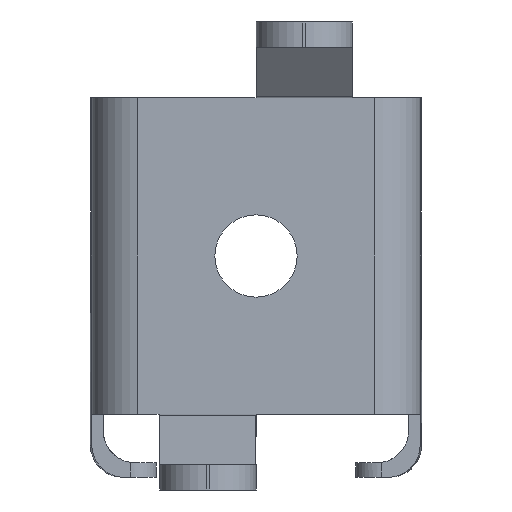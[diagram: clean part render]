
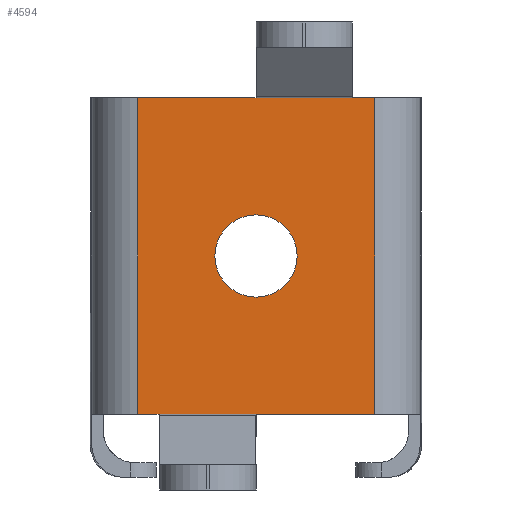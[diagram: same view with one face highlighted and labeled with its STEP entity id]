
A CAD part, front view. The second image highlights one B-rep face of the part: STEP entity #4594.
In plain terms, the highlighted planar face has unit normal (0, -1, 0).
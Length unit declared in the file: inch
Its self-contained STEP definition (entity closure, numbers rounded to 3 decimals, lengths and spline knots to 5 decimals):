
#35=FACE_BOUND('',#885,.T.);
#382=PLANE('',#4884);
#629=FACE_OUTER_BOUND('',#884,.T.);
#884=EDGE_LOOP('',(#4269,#4270,#4271,#4272,#4273,#4274,#4275,#4276,#4277,
#4278));
#885=EDGE_LOOP('',(#4279));
#1169=LINE('',#7795,#1596);
#1178=LINE('',#7816,#1605);
#1237=LINE('',#8144,#1664);
#1244=LINE('',#8166,#1671);
#1248=LINE('',#8182,#1675);
#1251=LINE('',#8187,#1678);
#1265=LINE('',#8258,#1692);
#1312=LINE('',#8433,#1739);
#1313=LINE('',#8435,#1740);
#1596=VECTOR('',#5372,0.3937);
#1605=VECTOR('',#5395,0.3937);
#1664=VECTOR('',#5588,0.3937);
#1671=VECTOR('',#5607,0.3937);
#1675=VECTOR('',#5621,0.3937);
#1678=VECTOR('',#5628,0.3937);
#1692=VECTOR('',#5672,0.3937);
#1739=VECTOR('',#5833,0.3937);
#1740=VECTOR('',#5836,0.3937);
#1749=CIRCLE('',#4625,0.02559);
#1810=CIRCLE('',#4800,0.001);
#1840=VERTEX_POINT('',#5865);
#2114=VERTEX_POINT('',#7758);
#2125=VERTEX_POINT('',#7793);
#2126=VERTEX_POINT('',#7794);
#2131=VERTEX_POINT('',#7815);
#2223=VERTEX_POINT('',#8142);
#2224=VERTEX_POINT('',#8146);
#2225=VERTEX_POINT('',#8148);
#2232=VERTEX_POINT('',#8165);
#2239=VERTEX_POINT('',#8181);
#2265=VERTEX_POINT('',#8256);
#2289=EDGE_CURVE('',#1840,#1840,#1749,.T.);
#2712=EDGE_CURVE('',#2125,#2126,#1169,.T.);
#2723=EDGE_CURVE('',#2126,#2131,#1178,.T.);
#2839=EDGE_CURVE('',#2223,#2114,#1237,.T.);
#2841=EDGE_CURVE('',#2224,#2225,#1810,.T.);
#2850=EDGE_CURVE('',#2225,#2232,#1244,.T.);
#2858=EDGE_CURVE('',#2114,#2239,#1248,.T.);
#2861=EDGE_CURVE('',#2239,#2224,#1251,.T.);
#2890=EDGE_CURVE('',#2265,#2125,#1265,.T.);
#2956=EDGE_CURVE('',#2131,#2223,#1312,.T.);
#2957=EDGE_CURVE('',#2265,#2232,#1313,.T.);
#4269=ORIENTED_EDGE('',*,*,#2890,.F.);
#4270=ORIENTED_EDGE('',*,*,#2957,.T.);
#4271=ORIENTED_EDGE('',*,*,#2850,.F.);
#4272=ORIENTED_EDGE('',*,*,#2841,.F.);
#4273=ORIENTED_EDGE('',*,*,#2861,.F.);
#4274=ORIENTED_EDGE('',*,*,#2858,.F.);
#4275=ORIENTED_EDGE('',*,*,#2839,.F.);
#4276=ORIENTED_EDGE('',*,*,#2956,.F.);
#4277=ORIENTED_EDGE('',*,*,#2723,.F.);
#4278=ORIENTED_EDGE('',*,*,#2712,.F.);
#4279=ORIENTED_EDGE('',*,*,#2289,.T.);
#4594=ADVANCED_FACE('',(#629,#35),#382,.T.);
#4625=AXIS2_PLACEMENT_3D('',#5866,#4898,#4899);
#4800=AXIS2_PLACEMENT_3D('',#8149,#5592,#5593);
#4884=AXIS2_PLACEMENT_3D('',#8434,#5834,#5835);
#4898=DIRECTION('center_axis',(0.,1.,0.));
#4899=DIRECTION('ref_axis',(-1.,0.,0.));
#5372=DIRECTION('',(1.,0.,0.));
#5395=DIRECTION('',(1.,0.,0.));
#5588=DIRECTION('',(-1.,0.,0.));
#5592=DIRECTION('center_axis',(0.,-1.,0.));
#5593=DIRECTION('ref_axis',(0.707,0.,0.707));
#5607=DIRECTION('',(-1.,0.,0.));
#5621=DIRECTION('',(-1.,0.,0.));
#5628=DIRECTION('',(0.,0.,-1.));
#5672=DIRECTION('',(1.,0.,0.));
#5833=DIRECTION('',(0.,0.,-1.));
#5834=DIRECTION('center_axis',(0.,-1.,0.));
#5835=DIRECTION('ref_axis',(1.,0.,0.));
#5836=DIRECTION('',(0.,0.,-1.));
#5865=CARTESIAN_POINT('',(0.02559,0.03875,0.));
#5866=CARTESIAN_POINT('Origin',(0.,0.03875,0.));
#7758=CARTESIAN_POINT('',(0.,0.03875,-0.09843));
#7793=CARTESIAN_POINT('',(0.,0.03875,0.09843));
#7794=CARTESIAN_POINT('',(0.06,0.03875,0.09843));
#7795=CARTESIAN_POINT('',(0.07378,0.03875,0.09843));
#7815=CARTESIAN_POINT('',(0.07378,0.03875,0.09843));
#7816=CARTESIAN_POINT('',(0.07378,0.03875,0.09843));
#8142=CARTESIAN_POINT('',(0.07378,0.03875,-0.09843));
#8144=CARTESIAN_POINT('',(0.07378,0.03875,-0.09843));
#8146=CARTESIAN_POINT('',(-0.06,0.03875,-0.09943));
#8148=CARTESIAN_POINT('',(-0.061,0.03875,-0.09843));
#8149=CARTESIAN_POINT('Origin',(-0.061,0.03875,-0.09943));
#8165=CARTESIAN_POINT('',(-0.07371,0.03875,-0.09843));
#8166=CARTESIAN_POINT('',(0.07378,0.03875,-0.09843));
#8181=CARTESIAN_POINT('',(-0.06,0.03875,-0.09843));
#8182=CARTESIAN_POINT('',(0.07378,0.03875,-0.09843));
#8187=CARTESIAN_POINT('',(-0.06,0.03875,-0.06271));
#8256=CARTESIAN_POINT('',(-0.07371,0.03875,0.09843));
#8258=CARTESIAN_POINT('',(0.07378,0.03875,0.09843));
#8433=CARTESIAN_POINT('',(0.07378,0.03875,0.));
#8434=CARTESIAN_POINT('Origin',(-0.07371,0.03875,
0.));
#8435=CARTESIAN_POINT('',(-0.07371,0.03875,0.));
